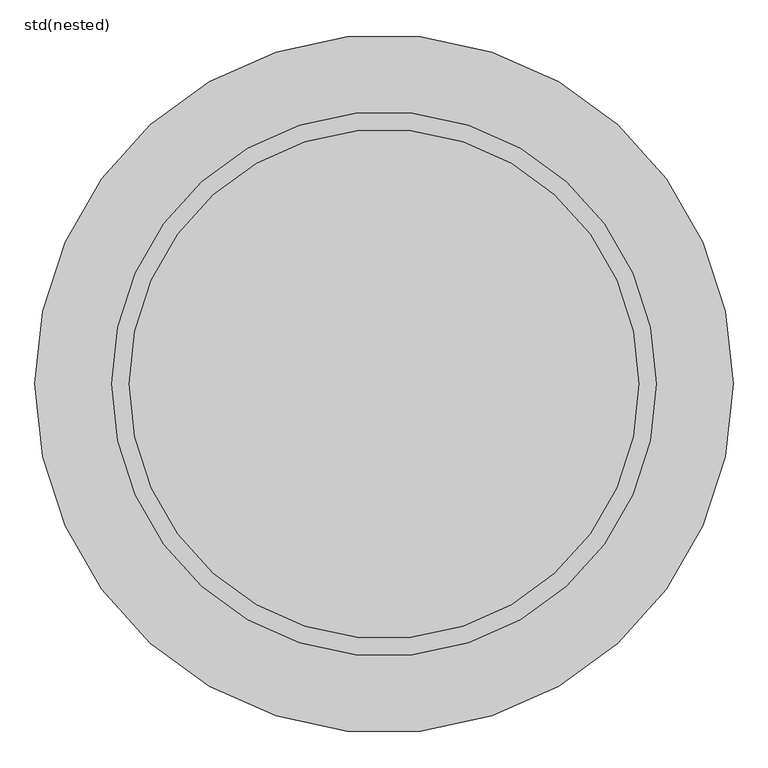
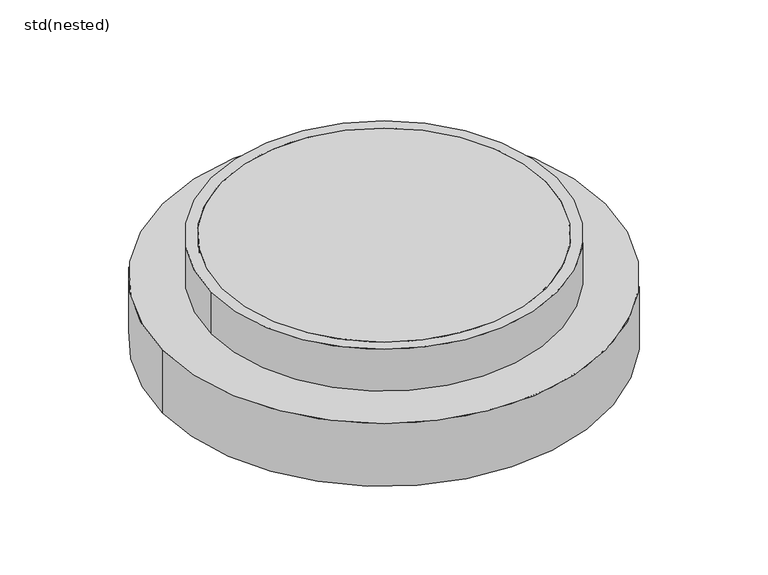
"""IFC4 building model written with IfcOpenShell, lengths in millimetres: unitary equipment geometry, ZZZ_do not use_ME_ST_WPB_top sections_plastic_ACO : std(nested)."""

from ifc_helpers import new_model, si_unit, point, frame, origin, origin_2d, place, context, project, spatial, circle_curve, trimmed, segment, composite_curve, outline, extrude, source, transform, mapped, element, save


def std_nested_abc9d05a(model_context):
    return source(origin(), model_context, "Body", "SweptSolid", [
        extrude(outline(composite_curve([segment(trimmed(circle_curve(origin_2d(), 500.0), [point((-500.0, 0.0))], [point((500.0, 0.0))], False, "CARTESIAN"), True, "CONTINUOUS"), segment(trimmed(circle_curve(origin_2d(), 500.0), [point((500.0, 0.0))], [point((-500.0, 0.0))], False, "CARTESIAN"), True, "CONTINUOUS")], self_intersect=False)), frame((0.0, 0.0, -250.0), z_axis=(0.0, 0.0, 1.0), x_axis=(1.0, 0.0, 0.0)), (0.0, 0.0, 1.0), 150.0),
        extrude(outline(composite_curve([segment(trimmed(circle_curve(origin_2d(), 365.0), [point((365.0, 0.0))], [point((-365.0, 0.0))], False, "CARTESIAN"), True, "CONTINUOUS"), segment(trimmed(circle_curve(origin_2d(), 365.0), [point((-365.0, 0.0))], [point((365.0, 0.0))], False, "CARTESIAN"), True, "CONTINUOUS")], self_intersect=False)), frame((0.0, 0.0, -100.0), z_axis=(0.0, 0.0, 1.0), x_axis=(1.0, 0.0, 0.0)), (0.0, 0.0, 1.0), 100.0),
        extrude(outline(composite_curve([segment(trimmed(circle_curve(origin_2d(), 390.0), [point((-390.0, 0.0))], [point((390.0, 0.0))], False, "CARTESIAN"), True, "CONTINUOUS"), segment(trimmed(circle_curve(origin_2d(), 390.0), [point((390.0, 0.0))], [point((-390.0, 0.0))], False, "CARTESIAN"), True, "CONTINUOUS")], self_intersect=False), holes=[composite_curve([segment(trimmed(circle_curve(origin_2d(), 365.0), [point((-365.0, 0.0))], [point((365.0, 0.0))], True, "CARTESIAN"), True, "CONTINUOUS"), segment(trimmed(circle_curve(origin_2d(), 365.0), [point((365.0, 0.0))], [point((-365.0, 0.0))], True, "CARTESIAN"), True, "CONTINUOUS")], self_intersect=False)]), frame((0.0, 0.0, -100.0), z_axis=(0.0, 0.0, 1.0), x_axis=(1.0, 0.0, 0.0)), (0.0, 0.0, 1.0), 100.0),
    ])


if __name__ == "__main__":
    model = new_model("IFC4")
    model_context = context("Model", 3, world=origin())
    ifc_project = project(units=[si_unit("LENGTHUNIT", "METRE", prefix="MILLI")], contexts=[model_context])
    site = spatial("IfcSite", under=ifc_project)
    building = spatial("IfcBuilding", under=site)
    placement = place(None, origin())
    std_nested_shape = std_nested_abc9d05a(model_context)
    element("IfcUnitaryEquipment", 1, ObjectType="ZZZ_do not use_ME_ST_WPB_top sections_plastic_ACO : std(nested)", at=placement, inside=building, context=model_context, shape_type="MappedRepresentation", body=[
        mapped(std_nested_shape, transform((0.0, 0.0, 0.0), x_axis=(1.0, 0.0, 0.0), y_axis=(0.0, 1.0, 0.0), z_axis=(0.0, 0.0, 1.0))),
    ])
    save(model, "model.ifc")
